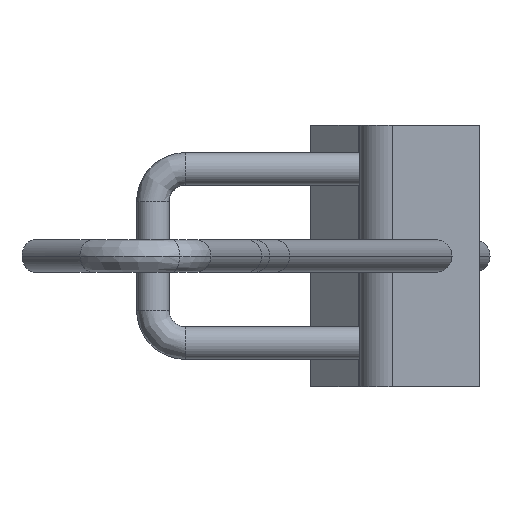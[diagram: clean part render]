
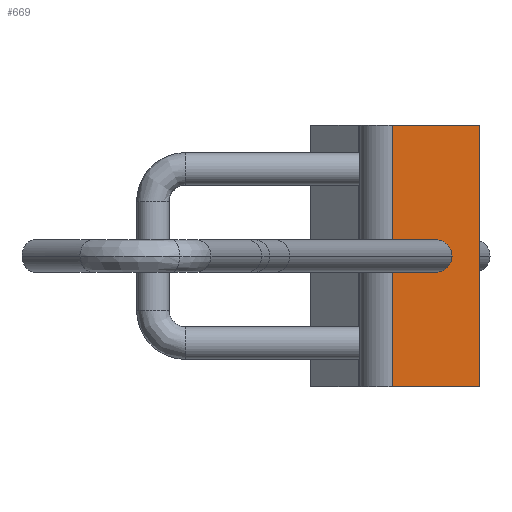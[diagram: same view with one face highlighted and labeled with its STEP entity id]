
A CAD part, left-side view. The second image highlights one B-rep face of the part: STEP entity #669.
In plain terms, the highlighted planar face has unit normal (-1, 0, 0).
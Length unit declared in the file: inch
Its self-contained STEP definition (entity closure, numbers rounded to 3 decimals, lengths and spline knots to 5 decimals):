
#445=EDGE_CURVE('',#1142,#1143,#1144,.T.);
#521=EDGE_CURVE('',#1172,#1191,#1268,.T.);
#657=EDGE_CURVE('',#1191,#1143,#1464,.T.);
#669=ADVANCED_FACE('',(#1478,#1479),#1480,.T.);
#927=EDGE_CURVE('',#1172,#1142,#1806,.T.);
#933=EDGE_CURVE('',#1813,#1814,#1815,.T.);
#967=EDGE_CURVE('',#1814,#1813,#1857,.T.);
#1142=VERTEX_POINT('',#2139);
#1143=VERTEX_POINT('',#2140);
#1144=LINE('',#2141,#2142);
#1172=VERTEX_POINT('',#2190);
#1191=VERTEX_POINT('',#2223);
#1268=LINE('',#2417,#2418);
#1464=LINE('',#3269,#3270);
#1478=FACE_OUTER_BOUND('',#3290,.T.);
#1479=FACE_BOUND('',#3291,.T.);
#1480=PLANE('',#3292);
#1806=LINE('',#4029,#4030);
#1813=VERTEX_POINT('',#4040);
#1814=VERTEX_POINT('',#4041);
#1815=ELLIPSE('',#4042,0.19058,0.1875);
#1857=ELLIPSE('',#4169,0.19058,0.1875);
#2139=CARTESIAN_POINT('',(3.52252,-0.14678,0.0));
#2140=CARTESIAN_POINT('',(3.52252,-0.14678,3.0));
#2141=CARTESIAN_POINT('',(3.52252,-0.14678,0.0));
#2142=VECTOR('',#4320,1.0);
#2190=CARTESIAN_POINT('',(3.52252,-1.14678,0.0));
#2223=CARTESIAN_POINT('',(3.52252,-1.14678,3.0));
#2417=CARTESIAN_POINT('',(3.52252,-1.14678,0.0));
#2418=VECTOR('',#4430,1.0);
#3269=CARTESIAN_POINT('',(3.52252,-1.14678,3.0));
#3270=VECTOR('',#4688,1.0);
#3290=EDGE_LOOP('',(#4704,#4705,#4706,#4707));
#3291=EDGE_LOOP('',(#4708,#4709));
#3292=AXIS2_PLACEMENT_3D('',#4710,#4711,#4712);
#4029=CARTESIAN_POINT('',(3.52252,-1.14678,0.0));
#4030=VECTOR('',#5125,1.0);
#4040=CARTESIAN_POINT('',(3.52252,-0.83131,1.5));
#4041=CARTESIAN_POINT('',(3.52252,-0.45015,1.5));
#4042=AXIS2_PLACEMENT_3D('',#5135,#5136,#5137);
#4169=AXIS2_PLACEMENT_3D('',#5201,#5202,#5203);
#4320=DIRECTION('',(0.0,0.0,1.0));
#4430=DIRECTION('',(0.0,0.0,1.0));
#4688=DIRECTION('',(0.0,1.0,0.0));
#4704=ORIENTED_EDGE('',*,*,#657,.T.);
#4705=ORIENTED_EDGE('',*,*,#445,.F.);
#4706=ORIENTED_EDGE('',*,*,#927,.F.);
#4707=ORIENTED_EDGE('',*,*,#521,.T.);
#4708=ORIENTED_EDGE('',*,*,#967,.F.);
#4709=ORIENTED_EDGE('',*,*,#933,.F.);
#4710=CARTESIAN_POINT('',(3.52252,-0.64678,0.0));
#4711=DIRECTION('',(-1.0,-0.0,0.0));
#4712=DIRECTION('',(0.0,-1.0,-0.0));
#5125=DIRECTION('',(0.0,1.0,0.0));
#5135=CARTESIAN_POINT('',(3.52252,-0.64073,1.5));
#5136=DIRECTION('',(-1.0,0.0,0.0));
#5137=DIRECTION('',(0.0,-1.0,0.0));
#5201=CARTESIAN_POINT('',(3.52252,-0.64073,1.5));
#5202=DIRECTION('',(-1.0,0.0,0.0));
#5203=DIRECTION('',(0.0,-1.0,0.0));
